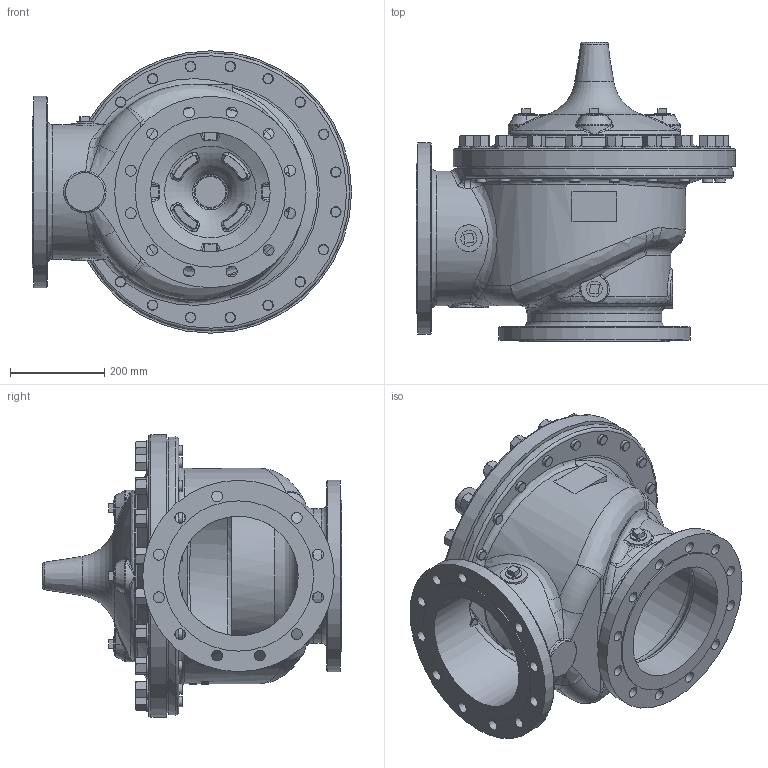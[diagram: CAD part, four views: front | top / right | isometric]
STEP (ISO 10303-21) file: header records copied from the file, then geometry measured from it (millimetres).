
FILE_DESCRIPTION(/* description */ (''),/* implementation_level */ '2;1');
FILE_NAME(/* name */ 'G:\Doc_Liberes\SymbolesCAD\Modeles_3D\FichierSTP\VanneDeBase\AE250-10RF.stp',/* time_stamp */ '2023-08-17T08:48:57+02:00',/* author */ ('theo'),/* organization */ (''),/* preprocessor_version */ 'ST-DEVELOPER v18.1',/* originating_system */ 'Autodesk Inventor 2022',/* authorisation */ '');
FILE_SCHEMA (('AUTOMOTIVE_DESIGN { 1 0 10303 214 3 1 1 }'));
Products named in the file (1): AE250-10_Simplifier_1
Bounding box: 677.92 x 635.23 x 599.95 mm (x, y, z)
Volume: 27790120.9 mm3; surface area: 2820134.8 mm2
Topology: 1 solids, 1 shells, 1495 faces, 3683 edges, 2267 vertices
Faces by surface type: cone 509, plane 469, bspline 264, cylinder 161, torus 84, sphere 8
Full cylindrical faces by diameter (mm): 22.05 x36, 23 x23, 44.45 x20, 57.2 x2, 68.263 x1, 82.5 x1, 254 x2, 282.5 x1, 286 x2, 292.1 x1, 319 x2, 330.2 x1, 330.7 x1, 365.252 x1, 406.4 x2, 580.5 x1, 581.025 x1, 599.948 x1
Entity records: 81553 total; most frequent: CARTESIAN_POINT 49258, ORIENTED_EDGE 7310, DIRECTION 6174, EDGE_CURVE 3655, AXIS2_PLACEMENT_3D 2773, VERTEX_POINT 2267, EDGE_LOOP 1688, CIRCLE 1509
